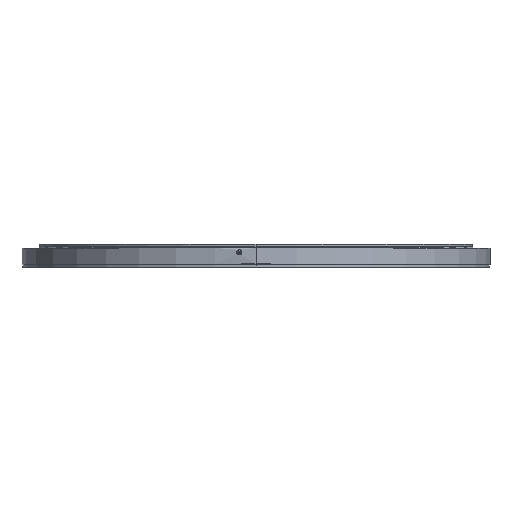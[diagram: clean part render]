
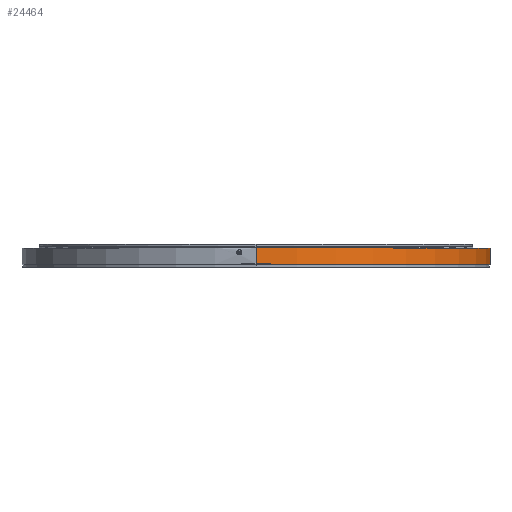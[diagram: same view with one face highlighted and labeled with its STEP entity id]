
A CAD part, top view. The second image highlights one B-rep face of the part: STEP entity #24464.
In plain terms, the highlighted cylindrical face has radius 917 mm (diameter 1834 mm), a partial arc.
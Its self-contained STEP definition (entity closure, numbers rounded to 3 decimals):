
#1076 = ORIENTED_EDGE ( 'NONE', *, *, #5391, .T. ) ;
#1450 = CARTESIAN_POINT ( 'NONE',  ( 0., 46.134, -917. ) ) ;
#2194 = CYLINDRICAL_SURFACE ( 'NONE', #18485, 917. ) ;
#3895 = CARTESIAN_POINT ( 'NONE',  ( 0., 46.134, 0. ) ) ;
#4592 = DIRECTION ( 'NONE',  ( 0., -1., 0. ) ) ;
#5391 = EDGE_CURVE ( 'NONE', #22240, #31737, #31481, .T. ) ;
#5500 = DIRECTION ( 'NONE',  ( 0., -1., 0. ) ) ;
#6309 = EDGE_CURVE ( 'NONE', #6597, #31737, #8552, .T. ) ;
#6597 = VERTEX_POINT ( 'NONE', #31550 ) ;
#6698 = VERTEX_POINT ( 'NONE', #1450 ) ;
#8552 = CIRCLE ( 'NONE', #20627, 917. ) ;
#9537 = LINE ( 'NONE', #17244, #17735 ) ;
#9696 = VECTOR ( 'NONE', #5500, 1000. ) ;
#10975 = CARTESIAN_POINT ( 'NONE',  ( 0., 0., 917. ) ) ;
#13427 = ORIENTED_EDGE ( 'NONE', *, *, #33176, .F. ) ;
#14455 = EDGE_LOOP ( 'NONE', ( #17691, #1076, #18572, #13427 ) ) ;
#15818 = CIRCLE ( 'NONE', #33805, 917. ) ;
#17234 = CARTESIAN_POINT ( 'NONE',  ( 0., -16.866, 0. ) ) ;
#17244 = CARTESIAN_POINT ( 'NONE',  ( 0., 0., -917. ) ) ;
#17641 = CARTESIAN_POINT ( 'NONE',  ( 0., 46.134, 917. ) ) ;
#17691 = ORIENTED_EDGE ( 'NONE', *, *, #25772, .T. ) ;
#17735 = VECTOR ( 'NONE', #22401, 1000. ) ;
#18485 = AXIS2_PLACEMENT_3D ( 'NONE', #28043, #4592, #32977 ) ;
#18572 = ORIENTED_EDGE ( 'NONE', *, *, #6309, .F. ) ;
#19304 = DIRECTION ( 'NONE',  ( 0., -1., 0. ) ) ;
#19468 = DIRECTION ( 'NONE',  ( 0., -1., 0. ) ) ;
#20627 = AXIS2_PLACEMENT_3D ( 'NONE', #17234, #19304, #27171 ) ;
#22181 = CARTESIAN_POINT ( 'NONE',  ( 0., -16.866, 917. ) ) ;
#22240 = VERTEX_POINT ( 'NONE', #17641 ) ;
#22401 = DIRECTION ( 'NONE',  ( 0., -1., 0. ) ) ;
#23098 = FACE_OUTER_BOUND ( 'NONE', #14455, .T. ) ;
#24464 = ADVANCED_FACE ( 'NONE', ( #23098 ), #2194, .T. ) ;
#25772 = EDGE_CURVE ( 'NONE', #6698, #22240, #15818, .T. ) ;
#26839 = DIRECTION ( 'NONE',  ( 0., 0., -1. ) ) ;
#27171 = DIRECTION ( 'NONE',  ( 0., 0., -1. ) ) ;
#28043 = CARTESIAN_POINT ( 'NONE',  ( 0., 0., 0. ) ) ;
#31481 = LINE ( 'NONE', #10975, #9696 ) ;
#31550 = CARTESIAN_POINT ( 'NONE',  ( 0., -16.866, -917. ) ) ;
#31737 = VERTEX_POINT ( 'NONE', #22181 ) ;
#32977 = DIRECTION ( 'NONE',  ( 0., 0., -1. ) ) ;
#33176 = EDGE_CURVE ( 'NONE', #6698, #6597, #9537, .T. ) ;
#33805 = AXIS2_PLACEMENT_3D ( 'NONE', #3895, #19468, #26839 ) ;
